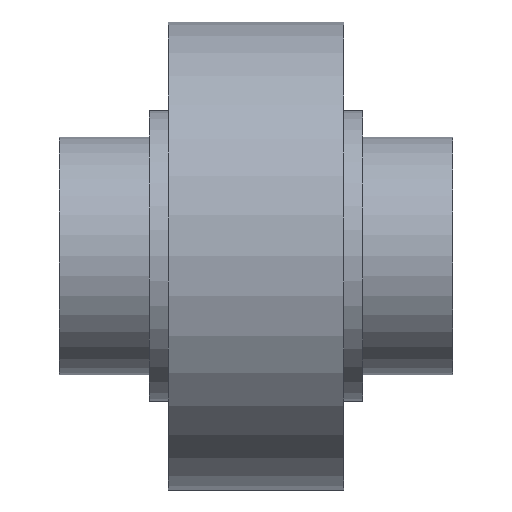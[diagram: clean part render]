
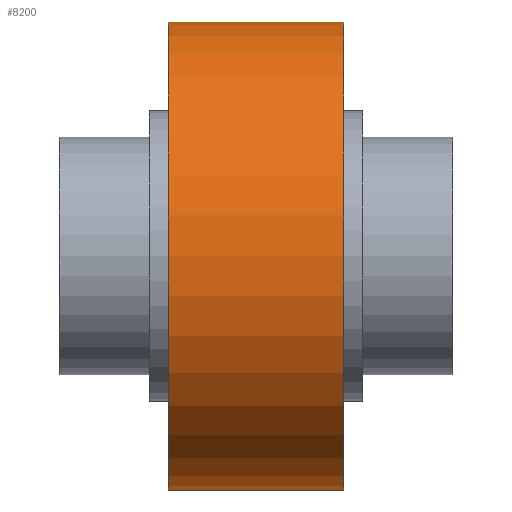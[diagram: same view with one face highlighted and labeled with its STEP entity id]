
A CAD part, top view. The second image highlights one B-rep face of the part: STEP entity #8200.
In plain terms, the highlighted cylindrical face has radius 315 mm (diameter 630 mm), a partial arc.
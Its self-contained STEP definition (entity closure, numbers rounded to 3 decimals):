
#7952=CARTESIAN_POINT('',(118.,0.,0.));
#7953=DIRECTION('',(1.,0.,0.));
#7954=DIRECTION('',(0.,1.,0.));
#7955=AXIS2_PLACEMENT_3D('',#7952,#7953,#7954);
#7957=DIRECTION('',(-1.,0.,0.));
#7958=VECTOR('',#7957,236.);
#7959=CARTESIAN_POINT('',(118.,315.,0.));
#7960=LINE('',#7959,#7958);
#7961=DIRECTION('',(-1.,0.,0.));
#7962=VECTOR('',#7961,236.);
#7963=CARTESIAN_POINT('',(118.,-315.,0.));
#7964=LINE('',#7963,#7962);
#7975=CARTESIAN_POINT('',(-118.,0.,0.));
#7976=DIRECTION('',(1.,0.,0.));
#7977=DIRECTION('',(0.,1.,0.));
#7978=AXIS2_PLACEMENT_3D('',#7975,#7976,#7977);
#8032=CARTESIAN_POINT('',(118.,315.,0.));
#8033=CARTESIAN_POINT('',(-118.,315.,0.));
#8034=VERTEX_POINT('',#8032);
#8035=VERTEX_POINT('',#8033);
#8040=CARTESIAN_POINT('',(118.,-315.,0.));
#8041=CARTESIAN_POINT('',(-118.,-315.,0.));
#8042=VERTEX_POINT('',#8040);
#8043=VERTEX_POINT('',#8041);
#8186=CARTESIAN_POINT('',(-129.8,0.,0.));
#8187=DIRECTION('',(1.,0.,0.));
#8188=DIRECTION('',(0.,-1.,0.));
#8189=AXIS2_PLACEMENT_3D('',#8186,#8187,#8188);
#8190=CYLINDRICAL_SURFACE('',#8189,315.);
#8192=ORIENTED_EDGE('',*,*,#8191,.F.);
#8193=ORIENTED_EDGE('',*,*,#8175,.T.);
#8195=ORIENTED_EDGE('',*,*,#8194,.T.);
#8197=ORIENTED_EDGE('',*,*,#8196,.F.);
#8198=EDGE_LOOP('',(#8192,#8193,#8195,#8197));
#8199=FACE_OUTER_BOUND('',#8198,.F.);
#8200=ADVANCED_FACE('',(#8199),#8190,.T.);
#7956=CIRCLE('',#7955,315.);
#7979=CIRCLE('',#7978,315.);
#8175=EDGE_CURVE('',#8034,#8042,#7956,.T.);
#8191=EDGE_CURVE('',#8034,#8035,#7960,.T.);
#8194=EDGE_CURVE('',#8042,#8043,#7964,.T.);
#8196=EDGE_CURVE('',#8035,#8043,#7979,.T.);
